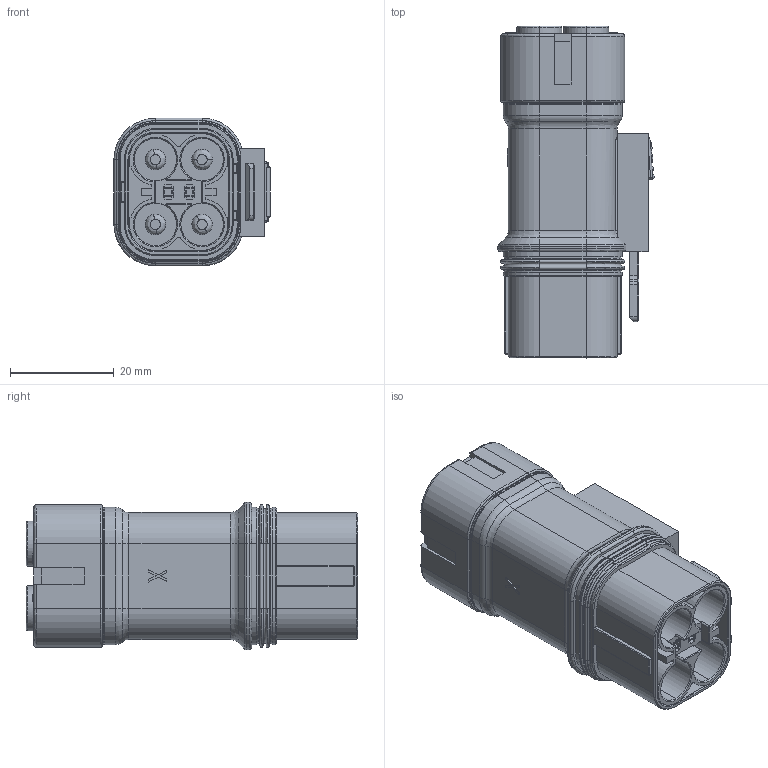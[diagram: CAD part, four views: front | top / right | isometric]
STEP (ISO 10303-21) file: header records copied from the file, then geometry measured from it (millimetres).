
FILE_DESCRIPTION (( 'STEP AP214' ), '1' );
FILE_NAME ('PL184X-411.STEP', '2015-12-03T06:20:51', ( '' ), ( '' ), 'SwSTEP 2.0', 'SolidWorks 2014', '' );
FILE_SCHEMA (( 'AUTOMOTIVE_DESIGN' ));
Length unit declared in the file: millimetre
Products named in the file (1): PL184X-411
Bounding box: 30.13 x 64 x 28.5 mm (x, y, z)
Volume: 32969.4 mm3; surface area: 10933.2 mm2
Topology: 1 solids, 5 shells, 731 faces, 1831 edges, 1152 vertices
Faces by surface type: plane 373, cylinder 203, bspline 116, cone 39
Entity records: 33538 total; most frequent: CARTESIAN_POINT 8726, ORIENTED_EDGE 3662, DIRECTION 3429, EDGE_CURVE 1831, VECTOR 1153, LINE 1153, VERTEX_POINT 1152, AXIS2_PLACEMENT_3D 1138
